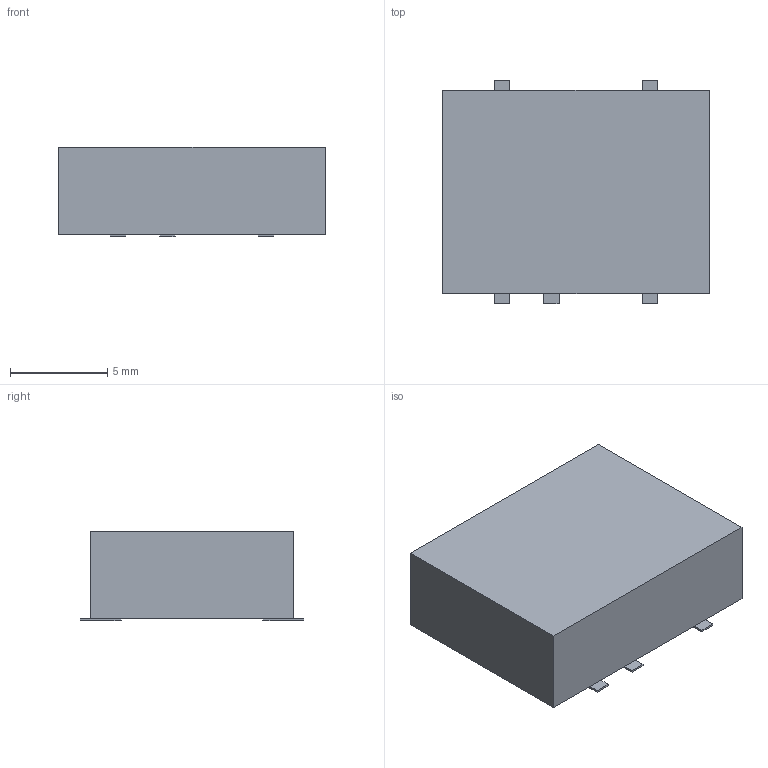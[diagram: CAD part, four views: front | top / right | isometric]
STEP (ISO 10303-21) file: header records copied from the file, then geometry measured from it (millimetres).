
FILE_DESCRIPTION(('FreeCAD Model'),'2;1');
FILE_NAME('/var/www/3D/0T/270397.1.2.stp','2020-04-08T06:10:03',( 'Author'),(''),'Open CASCADE STEP processor 6.9','FreeCAD','Unknown' );
FILE_SCHEMA(('AUTOMOTIVE_DESIGN { 1 0 10303 214 1 1 1 1 }'));
Length unit declared in the file: millimetre
Products named in the file (3): ASSEMBLY; Body; Pins
Assembly tree (2 placements, depth 2):
  ASSEMBLY
    Body
    Pins
Bounding box: 13.72 x 11.5 x 4.61 mm (x, y, z)
Volume: 648.1 mm3; surface area: 524.8 mm2
Topology: 6 solids, 6 shells, 36 faces, 72 edges, 48 vertices
Faces by surface type: plane 36
Entity records: 1946 total; most frequent: CARTESIAN_POINT 303, DIRECTION 294, LINE 216, VECTOR 216, ORIENTED_EDGE 144, PCURVE 144, DEFINITIONAL_REPRESENTATION 144, EDGE_CURVE 72
